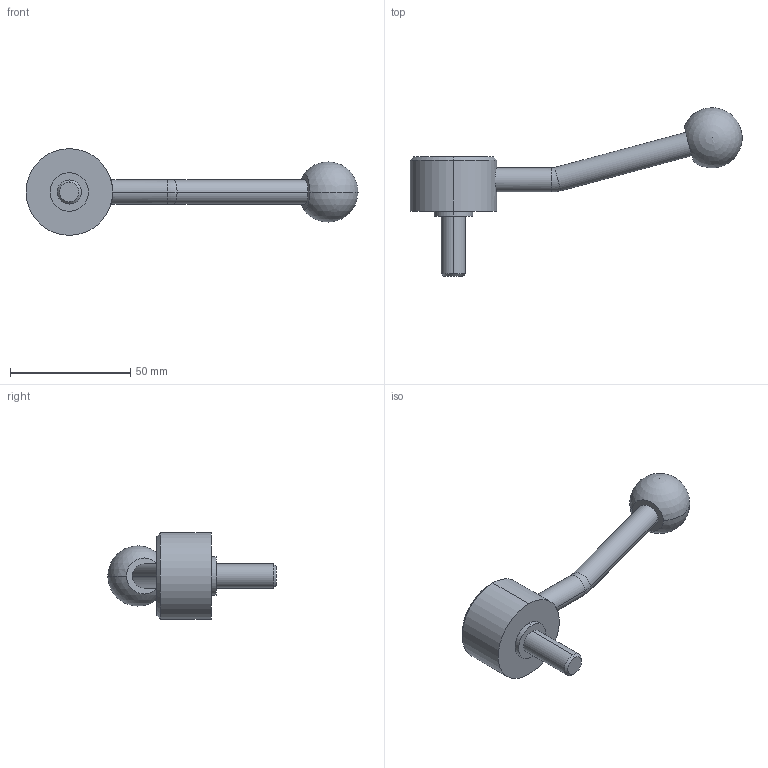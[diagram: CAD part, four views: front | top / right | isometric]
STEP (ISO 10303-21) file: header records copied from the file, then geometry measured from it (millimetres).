
FILE_DESCRIPTION (( 'STEP AP214' ), '1' );
FILE_NAME ('125.5-36-M10-25-E.step', '2020-02-18T11:31:16', ( '' ), ( '' ), 'SwSTEP 2.0', 'SolidWorks 2019', '' );
FILE_SCHEMA (( 'AUTOMOTIVE_DESIGN' ));
Length unit declared in the file: millimetre
Products named in the file (1): 125.5-36-M10-25-E
Bounding box: 137.95 x 70 x 36 mm (x, y, z)
Volume: 39615.4 mm3; surface area: 9723.1 mm2
Topology: 1 solids, 1 shells, 26 faces, 55 edges, 34 vertices
Faces by surface type: cylinder 12, plane 6, cone 4, torus 2, sphere 2
Entity records: 840 total; most frequent: CARTESIAN_POINT 182, DIRECTION 134, ORIENTED_EDGE 100, AXIS2_PLACEMENT_3D 59, EDGE_CURVE 50, CIRCLE 32, EDGE_LOOP 31, VERTEX_POINT 31
